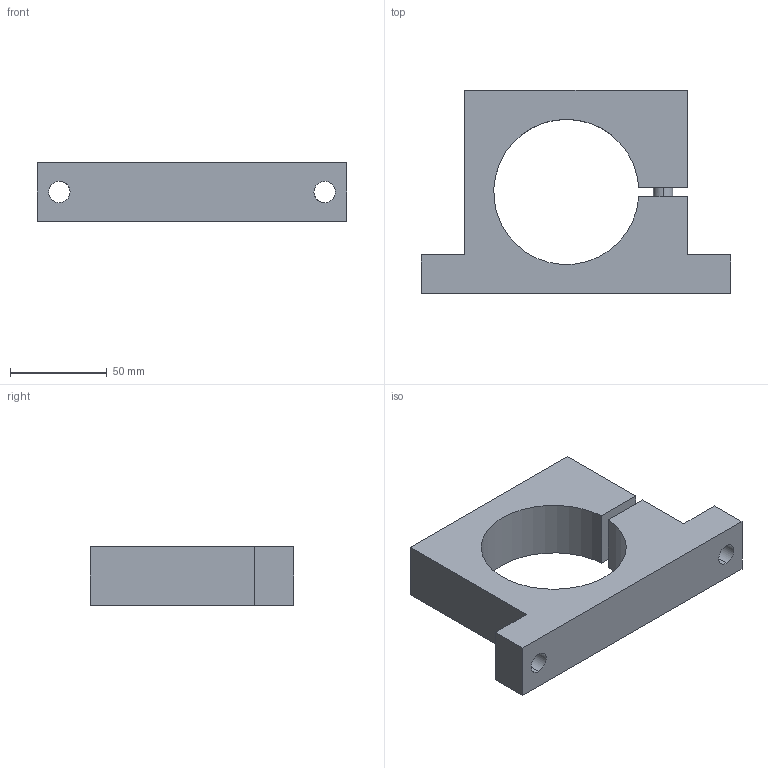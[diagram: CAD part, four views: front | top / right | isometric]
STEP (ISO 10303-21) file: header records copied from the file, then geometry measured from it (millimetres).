
FILE_DESCRIPTION(('CATIA V5 STEP Exchange'),'2;1');
FILE_NAME('W:\CATALOGO GENERAL 2018\FICHEROS CAD\023-BRIDAS\06-FI\FI 75.stp','2017-11-28T12:02:12+00:00',('none'),('none'),'CATIA Version 5 Release 17 (IN-10)','CATIA V5 STEP AP203','none');
FILE_SCHEMA(('CONFIG_CONTROL_DESIGN'));
Length unit declared in the file: millimetre
Products named in the file (1): FI 75
Bounding box: 160 x 105 x 30 mm (x, y, z)
Volume: 248762.7 mm3; surface area: 43164.3 mm2
Topology: 1 solids, 1 shells, 27 faces, 69 edges, 46 vertices
Faces by surface type: plane 15, cylinder 12
Entity records: 1181 total; most frequent: CARTESIAN_POINT 499, ORIENTED_EDGE 138, DIRECTION 107, EDGE_CURVE 69, VERTEX_POINT 46, VECTOR 45, LINE 45, AXIS2_PLACEMENT_3D 36
